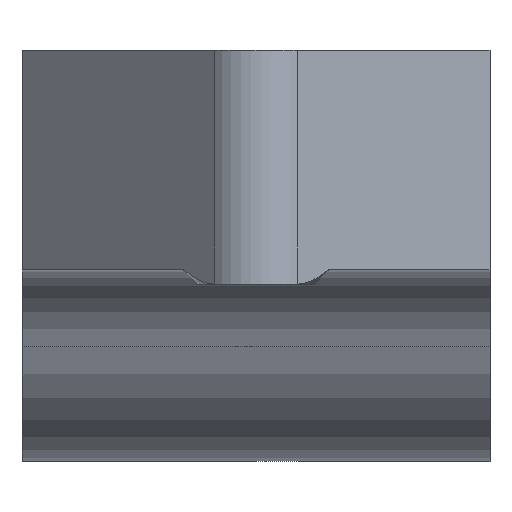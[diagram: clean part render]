
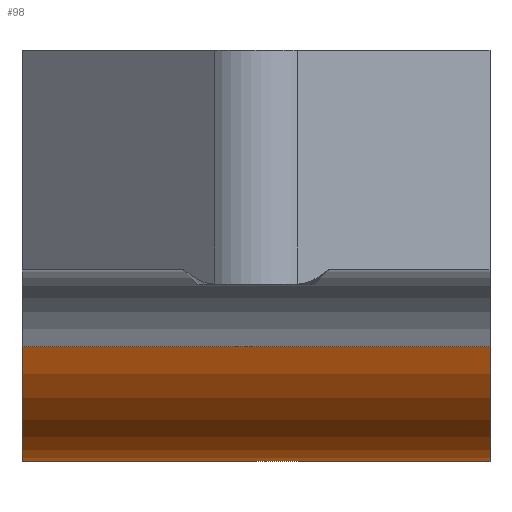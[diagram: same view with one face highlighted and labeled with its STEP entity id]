
A CAD part, top view. The second image highlights one B-rep face of the part: STEP entity #98.
In plain terms, the highlighted cylindrical face has radius 6 mm (diameter 12 mm), a partial arc.
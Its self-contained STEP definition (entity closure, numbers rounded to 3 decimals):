
#50 = EDGE_CURVE ( 'NONE', #373, #419, #1657, .T. ) ;
#51 = EDGE_CURVE ( 'NONE', #414, #373, #1656, .T. ) ;
#52 = EDGE_CURVE ( 'NONE', #387, #414, #1660, .T. ) ;
#54 = EDGE_CURVE ( 'NONE', #376, #419, #1661, .T. ) ;
#55 = EDGE_CURVE ( 'NONE', #425, #399, #1663, .T. ) ;
#82 = EDGE_CURVE ( 'NONE', #399, #383, #1705, .T. ) ;
#87 = EDGE_CURVE ( 'NONE', #387, #383, #1704, .T. ) ;
#98 = ADVANCED_FACE ( 'NONE', ( #1721 ), #1737, .T. ) ;
#143 = EDGE_CURVE ( 'NONE', #425, #376, #500, .T. ) ;
#373 = VERTEX_POINT ( 'NONE', #844 ) ;
#376 = VERTEX_POINT ( 'NONE', #832 ) ;
#383 = VERTEX_POINT ( 'NONE', #799 ) ;
#387 = VERTEX_POINT ( 'NONE', #786 ) ;
#399 = VERTEX_POINT ( 'NONE', #700 ) ;
#414 = VERTEX_POINT ( 'NONE', #659 ) ;
#419 = VERTEX_POINT ( 'NONE', #654 ) ;
#425 = VERTEX_POINT ( 'NONE', #840 ) ;
#500 = CIRCLE ( 'NONE', #556, 6. ) ;
#556 = AXIS2_PLACEMENT_3D ( 'NONE', #935, #917, #916 ) ;
#654 = CARTESIAN_POINT ( 'NONE',  ( 9.5, -5.279, -2.851 ) ) ;
#659 = CARTESIAN_POINT ( 'NONE',  ( 6.5, -5.657, -2. ) ) ;
#700 = CARTESIAN_POINT ( 'NONE',  ( 0., -2.1, 5.62 ) ) ;
#786 = CARTESIAN_POINT ( 'NONE',  ( 6.5, -5.279, -2.851 ) ) ;
#799 = CARTESIAN_POINT ( 'NONE',  ( 0., -5.279, -2.851 ) ) ;
#832 = CARTESIAN_POINT ( 'NONE',  ( 16., -5.279, -2.851 ) ) ;
#840 = CARTESIAN_POINT ( 'NONE',  ( 16., -2.1, 5.62 ) ) ;
#844 = CARTESIAN_POINT ( 'NONE',  ( 9.5, -5.657, -2. ) ) ;
#916 = DIRECTION ( 'NONE',  ( 0., 0., -1. ) ) ;
#917 = DIRECTION ( 'NONE',  ( 1., 0., 0. ) ) ;
#935 = CARTESIAN_POINT ( 'NONE',  ( 16., 0., 0. ) ) ;
#1012 = DIRECTION ( 'NONE',  ( -1., 0., 0. ) ) ;
#1015 = CARTESIAN_POINT ( 'NONE',  ( 16., -2.1, 5.62 ) ) ;
#1020 = DIRECTION ( 'NONE',  ( -1., 0., 0. ) ) ;
#1044 = DIRECTION ( 'NONE',  ( 0., 0., 1. ) ) ;
#1045 = DIRECTION ( 'NONE',  ( -1., 0., 0. ) ) ;
#1054 = CARTESIAN_POINT ( 'NONE',  ( 16., -5.279, -2.851 ) ) ;
#1055 = DIRECTION ( 'NONE',  ( 1., 0., 0. ) ) ;
#1061 = CARTESIAN_POINT ( 'NONE',  ( 6.5, 0., 0. ) ) ;
#1063 = DIRECTION ( 'NONE',  ( 0., 0., -1. ) ) ;
#1067 = DIRECTION ( 'NONE',  ( 1., 0., 0. ) ) ;
#1071 = CARTESIAN_POINT ( 'NONE',  ( 9.5, 0., 0. ) ) ;
#1087 = CARTESIAN_POINT ( 'NONE',  ( 16., -5.657, -2. ) ) ;
#1090 = DIRECTION ( 'NONE',  ( -1., 0., 0. ) ) ;
#1091 = DIRECTION ( 'NONE',  ( 0., 0., 1. ) ) ;
#1094 = CARTESIAN_POINT ( 'NONE',  ( 16., 0., 0. ) ) ;
#1132 = DIRECTION ( 'NONE',  ( -1., 0., 0. ) ) ;
#1135 = CARTESIAN_POINT ( 'NONE',  ( 16., -5.279, -2.851 ) ) ;
#1152 = DIRECTION ( 'NONE',  ( 0., 0., -1. ) ) ;
#1153 = DIRECTION ( 'NONE',  ( 1., 0., 0. ) ) ;
#1154 = CARTESIAN_POINT ( 'NONE',  ( 0., 0., 0. ) ) ;
#1270 = AXIS2_PLACEMENT_3D ( 'NONE', #1071, #1067, #1063 ) ;
#1274 = AXIS2_PLACEMENT_3D ( 'NONE', #1061, #1045, #1044 ) ;
#1286 = AXIS2_PLACEMENT_3D ( 'NONE', #1154, #1153, #1152 ) ;
#1302 = AXIS2_PLACEMENT_3D ( 'NONE', #1094, #1090, #1091 ) ;
#1394 = ORIENTED_EDGE ( 'NONE', *, *, #82, .T. ) ;
#1396 = ORIENTED_EDGE ( 'NONE', *, *, #55, .T. ) ;
#1397 = ORIENTED_EDGE ( 'NONE', *, *, #143, .F. ) ;
#1398 = ORIENTED_EDGE ( 'NONE', *, *, #54, .F. ) ;
#1399 = ORIENTED_EDGE ( 'NONE', *, *, #50, .T. ) ;
#1400 = ORIENTED_EDGE ( 'NONE', *, *, #51, .T. ) ;
#1401 = ORIENTED_EDGE ( 'NONE', *, *, #52, .T. ) ;
#1402 = ORIENTED_EDGE ( 'NONE', *, *, #87, .F. ) ;
#1574 = EDGE_LOOP ( 'NONE', ( #1402, #1401, #1400, #1399, #1398, #1397, #1396, #1394 ) ) ;
#1648 = VECTOR ( 'NONE', #1020, 1000. ) ;
#1654 = VECTOR ( 'NONE', #1055, 1000. ) ;
#1656 = LINE ( 'NONE', #1087, #1654 ) ;
#1657 = CIRCLE ( 'NONE', #1270, 6. ) ;
#1660 = CIRCLE ( 'NONE', #1274, 6. ) ;
#1661 = LINE ( 'NONE', #1054, #1648 ) ;
#1663 = LINE ( 'NONE', #1015, #1664 ) ;
#1664 = VECTOR ( 'NONE', #1012, 1000. ) ;
#1704 = LINE ( 'NONE', #1135, #1707 ) ;
#1705 = CIRCLE ( 'NONE', #1286, 6. ) ;
#1707 = VECTOR ( 'NONE', #1132, 1000. ) ;
#1721 = FACE_OUTER_BOUND ( 'NONE', #1574, .T. ) ;
#1737 = CYLINDRICAL_SURFACE ( 'NONE', #1302, 6. ) ;
